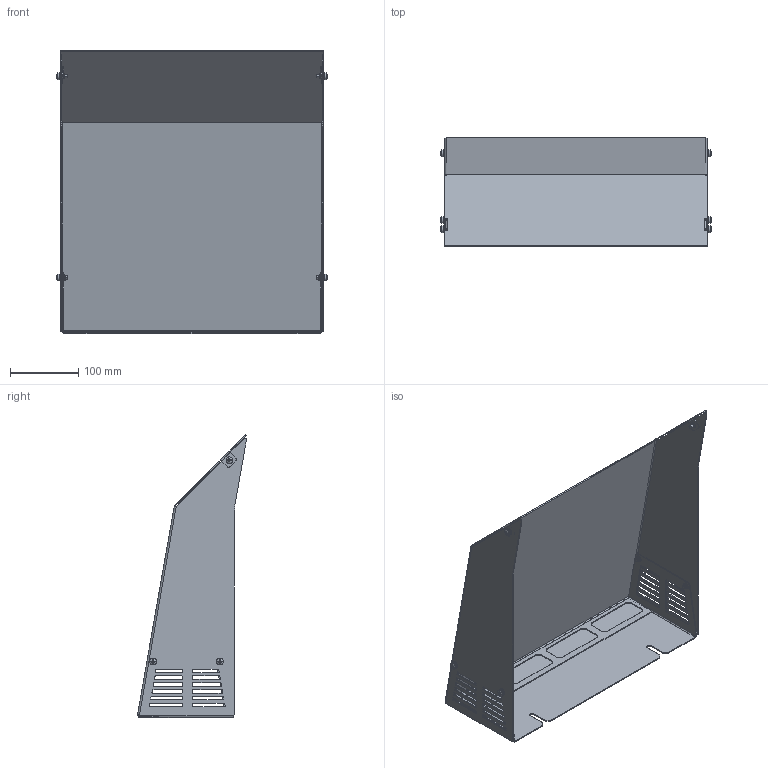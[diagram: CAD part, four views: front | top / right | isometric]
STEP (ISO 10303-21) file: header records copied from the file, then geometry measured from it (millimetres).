
FILE_DESCRIPTION((''),'2;1');
FILE_NAME('3AXD50000886470_ASM','2023-09-25T08:52:41',('USMAKAR'),(''),'CREO PARAMETRIC BY PTC INC, 2020281','CREO PARAMETRIC BY PTC INC, 2020281','');
FILE_SCHEMA(('CONFIG_CONTROL_DESIGN'));
Length unit declared in the file: millimetre
Products named in the file (4): 3AXD50000886449; 3AXD50000886456; LIB_3AXD50000875665_M5X12; 3AXD50000886470_ASM
Assembly tree (8 placements, depth 2):
  3AXD50000886470_ASM
    3AXD50000886449
    3AXD50000886456
    LIB_3AXD50000875665_M5X12  x6
Bounding box: 397.98 x 160.15 x 416.5 mm (x, y, z)
Volume: 490299.4 mm3; surface area: 665346.1 mm2
Topology: 8 solids, 8 shells, 686 faces, 1808 edges, 1156 vertices
Faces by surface type: plane 364, cylinder 260, torus 48, sphere 12, bspline 2
Entity records: 17374 total; most frequent: DIRECTION 3100, CARTESIAN_POINT 3051, ORIENTED_EDGE 2916, EDGE_CURVE 1458, AXIS2_PLACEMENT_3D 1097, VERTEX_POINT 926, VECTOR 906, LINE 906
